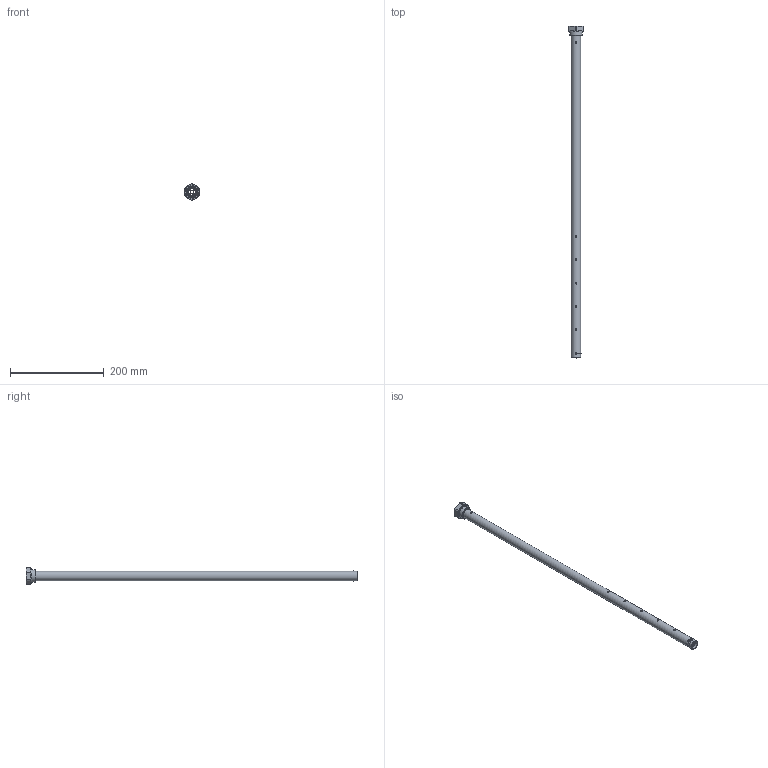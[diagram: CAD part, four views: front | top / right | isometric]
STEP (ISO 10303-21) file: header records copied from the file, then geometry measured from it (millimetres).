
FILE_DESCRIPTION(/* description */ ('STEP AP203'),/* implementation_level */ '2;1');
FILE_NAME(/* name */ 'E43213',/* time_stamp */ '2022-12-14T12:55:08+01:00',/* author */ ('License CC BY-ND 4.0'),/* organization */ ('CADENAS'),/* preprocessor_version */ 'ST-DEVELOPER v18.102',/* originating_system */ 'PARTsolutions',/* authorisation */ ' ');
FILE_SCHEMA (('CONFIG_CONTROL_DESIGN'));
Length unit declared in the file: millimetre
Products named in the file (1): E43213
Bounding box: 32.1 x 709.1 x 34.98 mm (x, y, z)
Volume: 49832.8 mm3; surface area: 87278.2 mm2
Topology: 1 solids, 1 shells, 101 faces, 307 edges, 191 vertices
Faces by surface type: cylinder 57, plane 35, cone 5, torus 4
Full cylindrical faces by diameter (mm): 1 x2, 3 x4, 4 x14, 16.5 x1, 18 x2, 20 x1, 24.117 x1, 26.441 x1, 32.1 x1
Entity records: 4137 total; most frequent: CARTESIAN_POINT 973, DIRECTION 490, ORIENTED_EDGE 460, EDGE_CURVE 230, AXIS2_PLACEMENT_3D 210, EDGE_LOOP 187, FACE_BOUND 187, VERTEX_POINT 163
